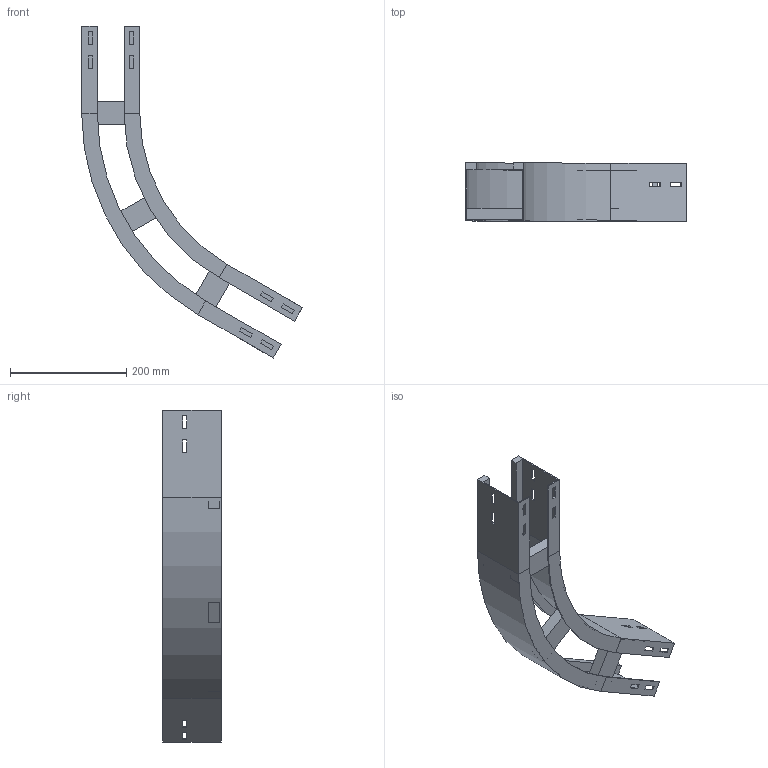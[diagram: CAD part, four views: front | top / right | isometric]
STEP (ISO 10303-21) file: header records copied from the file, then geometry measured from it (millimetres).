
FILE_DESCRIPTION (( 'STEP AP214' ), '1' );
FILE_NAME ('A2_13B3D100.step', '2025-02-21T15:17:33', ( '' ), ( '' ), 'SwSTEP 2.0', 'SolidWorks 2023', '' );
FILE_SCHEMA (( 'AUTOMOTIVE_DESIGN' ));
Length unit declared in the file: millimetre
Products named in the file (4): A2_13B3D100; A2_LONGH.INTERNO 60°_H100_R300; TRAVERSINO_100; A2_LONGH.ESTERNO 60°_H100_R300+100
Assembly tree (5 placements, depth 2):
  A2_13B3D100
    A2_LONGH.INTERNO 60°_H100_R300
    A2_LONGH.ESTERNO 60°_H100_R300+100
    TRAVERSINO_100  x3
Bounding box: 379.9 x 100 x 571.41 mm (x, y, z)
Volume: 817554.9 mm3; surface area: 419652.9 mm2
Topology: 5 solids, 5 shells, 134 faces, 340 edges, 216 vertices
Faces by surface type: plane 126, cylinder 8
Entity records: 3821 total; most frequent: CARTESIAN_POINT 646, ORIENTED_EDGE 632, DIRECTION 592, EDGE_CURVE 316, VECTOR 300, LINE 300, VERTEX_POINT 200, EDGE_LOOP 154
